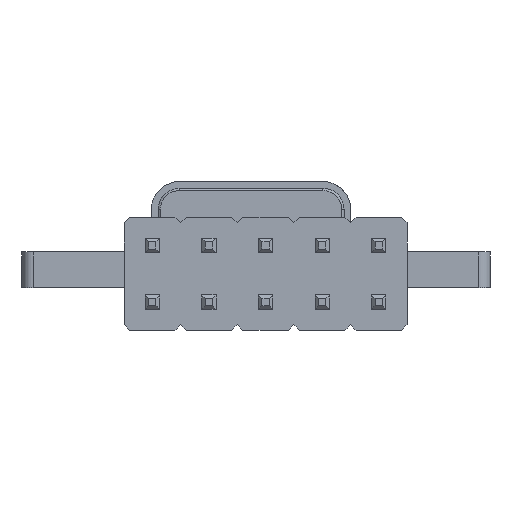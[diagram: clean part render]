
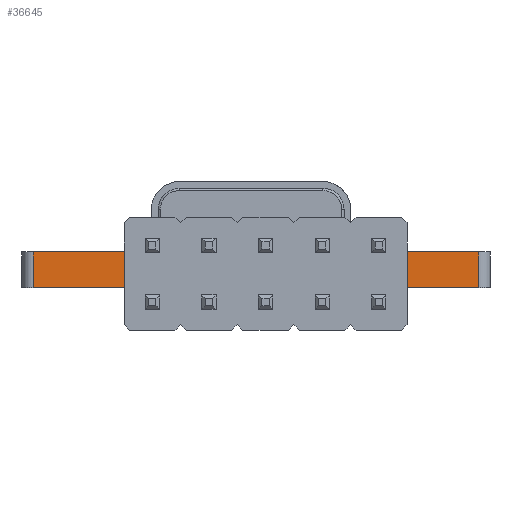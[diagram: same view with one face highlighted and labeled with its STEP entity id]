
A CAD part, front view. The second image highlights one B-rep face of the part: STEP entity #36645.
In plain terms, the highlighted planar face has unit normal (0, -1, 0).
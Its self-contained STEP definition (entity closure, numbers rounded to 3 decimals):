
#36527 = EDGE_CURVE('',#36528,#36530,#36532,.T.);
#36528 = VERTEX_POINT('',#36529);
#36529 = CARTESIAN_POINT('',(152.32,-131.87,0.));
#36530 = VERTEX_POINT('',#36531);
#36531 = CARTESIAN_POINT('',(152.32,-131.87,1.6));
#36532 = SURFACE_CURVE('',#36533,(#36537,#36549),.PCURVE_S1.);
#36533 = LINE('',#36534,#36535);
#36534 = CARTESIAN_POINT('',(152.32,-131.87,0.));
#36535 = VECTOR('',#36536,1.);
#36536 = DIRECTION('',(0.,0.,1.));
#36537 = PCURVE('',#36538,#36543);
#36538 = CYLINDRICAL_SURFACE('',#36539,0.5);
#36539 = AXIS2_PLACEMENT_3D('',#36540,#36541,#36542);
#36540 = CARTESIAN_POINT('',(152.32,-131.37,0.));
#36541 = DIRECTION('',(-0.,-0.,-1.));
#36542 = DIRECTION('',(1.,0.,-0.));
#36543 = DEFINITIONAL_REPRESENTATION('',(#36544),#36548);
#36544 = LINE('',#36545,#36546);
#36545 = CARTESIAN_POINT('',(-4.712,0.));
#36546 = VECTOR('',#36547,1.);
#36547 = DIRECTION('',(-0.,-1.));
#36548 = ( GEOMETRIC_REPRESENTATION_CONTEXT(2) 
PARAMETRIC_REPRESENTATION_CONTEXT() REPRESENTATION_CONTEXT('2D SPACE',''
  ) );
#36549 = PCURVE('',#36550,#36555);
#36550 = PLANE('',#36551);
#36551 = AXIS2_PLACEMENT_3D('',#36552,#36553,#36554);
#36552 = CARTESIAN_POINT('',(132.32,-131.87,0.));
#36553 = DIRECTION('',(0.,1.,0.));
#36554 = DIRECTION('',(1.,0.,0.));
#36555 = DEFINITIONAL_REPRESENTATION('',(#36556),#36560);
#36556 = LINE('',#36557,#36558);
#36557 = CARTESIAN_POINT('',(20.,0.));
#36558 = VECTOR('',#36559,1.);
#36559 = DIRECTION('',(0.,-1.));
#36560 = ( GEOMETRIC_REPRESENTATION_CONTEXT(2) 
PARAMETRIC_REPRESENTATION_CONTEXT() REPRESENTATION_CONTEXT('2D SPACE',''
  ) );
#36579 = PLANE('',#36580);
#36580 = AXIS2_PLACEMENT_3D('',#36581,#36582,#36583);
#36581 = CARTESIAN_POINT('',(142.32,-106.37,1.6));
#36582 = DIRECTION('',(0.,0.,1.));
#36583 = DIRECTION('',(1.,0.,-0.));
#36634 = PLANE('',#36635);
#36635 = AXIS2_PLACEMENT_3D('',#36636,#36637,#36638);
#36636 = CARTESIAN_POINT('',(142.32,-106.37,0.));
#36637 = DIRECTION('',(0.,0.,1.));
#36638 = DIRECTION('',(1.,0.,-0.));
#36645 = ADVANCED_FACE('',(#36646),#36550,.F.);
#36646 = FACE_BOUND('',#36647,.F.);
#36647 = EDGE_LOOP('',(#36648,#36678,#36699,#36700));
#36648 = ORIENTED_EDGE('',*,*,#36649,.T.);
#36649 = EDGE_CURVE('',#36650,#36652,#36654,.T.);
#36650 = VERTEX_POINT('',#36651);
#36651 = CARTESIAN_POINT('',(132.32,-131.87,0.));
#36652 = VERTEX_POINT('',#36653);
#36653 = CARTESIAN_POINT('',(132.32,-131.87,1.6));
#36654 = SURFACE_CURVE('',#36655,(#36659,#36666),.PCURVE_S1.);
#36655 = LINE('',#36656,#36657);
#36656 = CARTESIAN_POINT('',(132.32,-131.87,0.));
#36657 = VECTOR('',#36658,1.);
#36658 = DIRECTION('',(0.,0.,1.));
#36659 = PCURVE('',#36550,#36660);
#36660 = DEFINITIONAL_REPRESENTATION('',(#36661),#36665);
#36661 = LINE('',#36662,#36663);
#36662 = CARTESIAN_POINT('',(0.,0.));
#36663 = VECTOR('',#36664,1.);
#36664 = DIRECTION('',(0.,-1.));
#36665 = ( GEOMETRIC_REPRESENTATION_CONTEXT(2) 
PARAMETRIC_REPRESENTATION_CONTEXT() REPRESENTATION_CONTEXT('2D SPACE',''
  ) );
#36666 = PCURVE('',#36667,#36672);
#36667 = CYLINDRICAL_SURFACE('',#36668,0.5);
#36668 = AXIS2_PLACEMENT_3D('',#36669,#36670,#36671);
#36669 = CARTESIAN_POINT('',(132.32,-131.37,0.));
#36670 = DIRECTION('',(-0.,-0.,-1.));
#36671 = DIRECTION('',(1.,0.,-0.));
#36672 = DEFINITIONAL_REPRESENTATION('',(#36673),#36677);
#36673 = LINE('',#36674,#36675);
#36674 = CARTESIAN_POINT('',(-4.712,0.));
#36675 = VECTOR('',#36676,1.);
#36676 = DIRECTION('',(-0.,-1.));
#36677 = ( GEOMETRIC_REPRESENTATION_CONTEXT(2) 
PARAMETRIC_REPRESENTATION_CONTEXT() REPRESENTATION_CONTEXT('2D SPACE',''
  ) );
#36678 = ORIENTED_EDGE('',*,*,#36679,.T.);
#36679 = EDGE_CURVE('',#36652,#36530,#36680,.T.);
#36680 = SURFACE_CURVE('',#36681,(#36685,#36692),.PCURVE_S1.);
#36681 = LINE('',#36682,#36683);
#36682 = CARTESIAN_POINT('',(132.32,-131.87,1.6));
#36683 = VECTOR('',#36684,1.);
#36684 = DIRECTION('',(1.,0.,0.));
#36685 = PCURVE('',#36550,#36686);
#36686 = DEFINITIONAL_REPRESENTATION('',(#36687),#36691);
#36687 = LINE('',#36688,#36689);
#36688 = CARTESIAN_POINT('',(0.,-1.6));
#36689 = VECTOR('',#36690,1.);
#36690 = DIRECTION('',(1.,0.));
#36691 = ( GEOMETRIC_REPRESENTATION_CONTEXT(2) 
PARAMETRIC_REPRESENTATION_CONTEXT() REPRESENTATION_CONTEXT('2D SPACE',''
  ) );
#36692 = PCURVE('',#36579,#36693);
#36693 = DEFINITIONAL_REPRESENTATION('',(#36694),#36698);
#36694 = LINE('',#36695,#36696);
#36695 = CARTESIAN_POINT('',(-10.,-25.5));
#36696 = VECTOR('',#36697,1.);
#36697 = DIRECTION('',(1.,0.));
#36698 = ( GEOMETRIC_REPRESENTATION_CONTEXT(2) 
PARAMETRIC_REPRESENTATION_CONTEXT() REPRESENTATION_CONTEXT('2D SPACE',''
  ) );
#36699 = ORIENTED_EDGE('',*,*,#36527,.F.);
#36700 = ORIENTED_EDGE('',*,*,#36701,.F.);
#36701 = EDGE_CURVE('',#36650,#36528,#36702,.T.);
#36702 = SURFACE_CURVE('',#36703,(#36707,#36714),.PCURVE_S1.);
#36703 = LINE('',#36704,#36705);
#36704 = CARTESIAN_POINT('',(132.32,-131.87,0.));
#36705 = VECTOR('',#36706,1.);
#36706 = DIRECTION('',(1.,0.,0.));
#36707 = PCURVE('',#36550,#36708);
#36708 = DEFINITIONAL_REPRESENTATION('',(#36709),#36713);
#36709 = LINE('',#36710,#36711);
#36710 = CARTESIAN_POINT('',(0.,0.));
#36711 = VECTOR('',#36712,1.);
#36712 = DIRECTION('',(1.,0.));
#36713 = ( GEOMETRIC_REPRESENTATION_CONTEXT(2) 
PARAMETRIC_REPRESENTATION_CONTEXT() REPRESENTATION_CONTEXT('2D SPACE',''
  ) );
#36714 = PCURVE('',#36634,#36715);
#36715 = DEFINITIONAL_REPRESENTATION('',(#36716),#36720);
#36716 = LINE('',#36717,#36718);
#36717 = CARTESIAN_POINT('',(-10.,-25.5));
#36718 = VECTOR('',#36719,1.);
#36719 = DIRECTION('',(1.,0.));
#36720 = ( GEOMETRIC_REPRESENTATION_CONTEXT(2) 
PARAMETRIC_REPRESENTATION_CONTEXT() REPRESENTATION_CONTEXT('2D SPACE',''
  ) );
